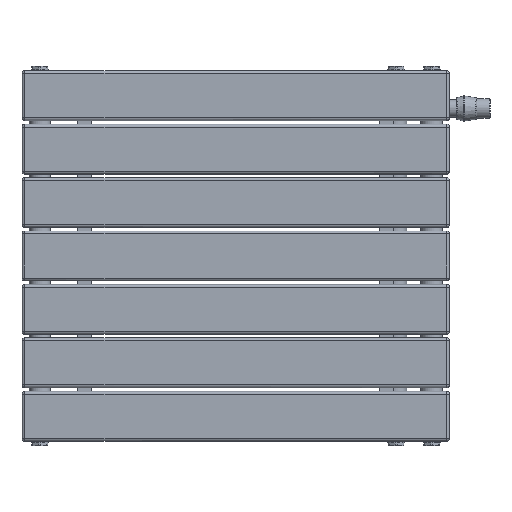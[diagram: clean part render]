
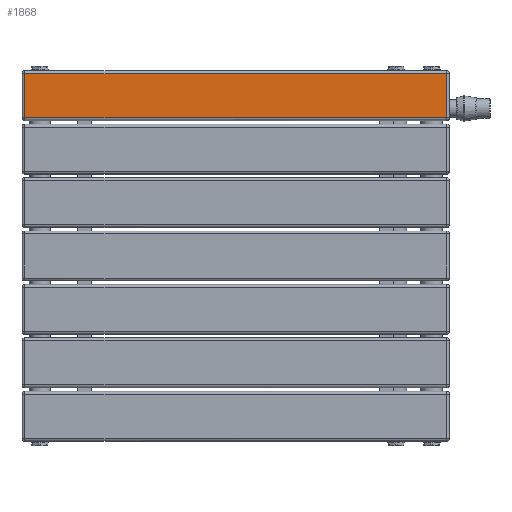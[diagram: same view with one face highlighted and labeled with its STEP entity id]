
A CAD part, top view. The second image highlights one B-rep face of the part: STEP entity #1868.
In plain terms, the highlighted planar face has unit normal (0, 0, 1) as drawn and (0, -1, 0) by its records, which use the part's own axes.
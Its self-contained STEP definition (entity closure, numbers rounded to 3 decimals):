
#325=LINE('',#3004,#449);
#326=LINE('',#3006,#450);
#327=LINE('',#3008,#451);
#328=LINE('',#3009,#452);
#449=VECTOR('',#2364,10.);
#450=VECTOR('',#2365,10.);
#451=VECTOR('',#2366,10.);
#452=VECTOR('',#2367,10.);
#567=PLANE('',#2062);
#669=FACE_OUTER_BOUND('',#784,.T.);
#784=EDGE_LOOP('',(#1410,#1411,#1412,#1413));
#1008=VERTEX_POINT('',#3002);
#1009=VERTEX_POINT('',#3003);
#1010=VERTEX_POINT('',#3005);
#1011=VERTEX_POINT('',#3007);
#1166=EDGE_CURVE('',#1008,#1009,#325,.T.);
#1167=EDGE_CURVE('',#1010,#1008,#326,.T.);
#1168=EDGE_CURVE('',#1011,#1010,#327,.T.);
#1169=EDGE_CURVE('',#1009,#1011,#328,.T.);
#1410=ORIENTED_EDGE('',*,*,#1166,.F.);
#1411=ORIENTED_EDGE('',*,*,#1167,.F.);
#1412=ORIENTED_EDGE('',*,*,#1168,.F.);
#1413=ORIENTED_EDGE('',*,*,#1169,.F.);
#1868=ADVANCED_FACE('',(#669),#567,.T.);
#2062=AXIS2_PLACEMENT_3D('',#3001,#2362,#2363);
#2362=DIRECTION('center_axis',(0.,-1.,0.));
#2363=DIRECTION('ref_axis',(1.,0.,0.));
#2364=DIRECTION('',(-1.,0.,0.));
#2365=DIRECTION('',(0.,0.,-1.));
#2366=DIRECTION('',(1.,0.,0.));
#2367=DIRECTION('',(0.,0.,1.));
#3001=CARTESIAN_POINT('Origin',(-31.,-8.,0.));
#3002=CARTESIAN_POINT('',(31.,-8.,-296.));
#3003=CARTESIAN_POINT('',(-31.,-8.,-296.));
#3004=CARTESIAN_POINT('',(-15.5,-8.,-296.));
#3005=CARTESIAN_POINT('',(31.,-8.,296.));
#3006=CARTESIAN_POINT('',(31.,-8.,0.));
#3007=CARTESIAN_POINT('',(-31.,-8.,296.));
#3008=CARTESIAN_POINT('',(-15.5,-8.,296.));
#3009=CARTESIAN_POINT('',(-31.,-8.,0.));
